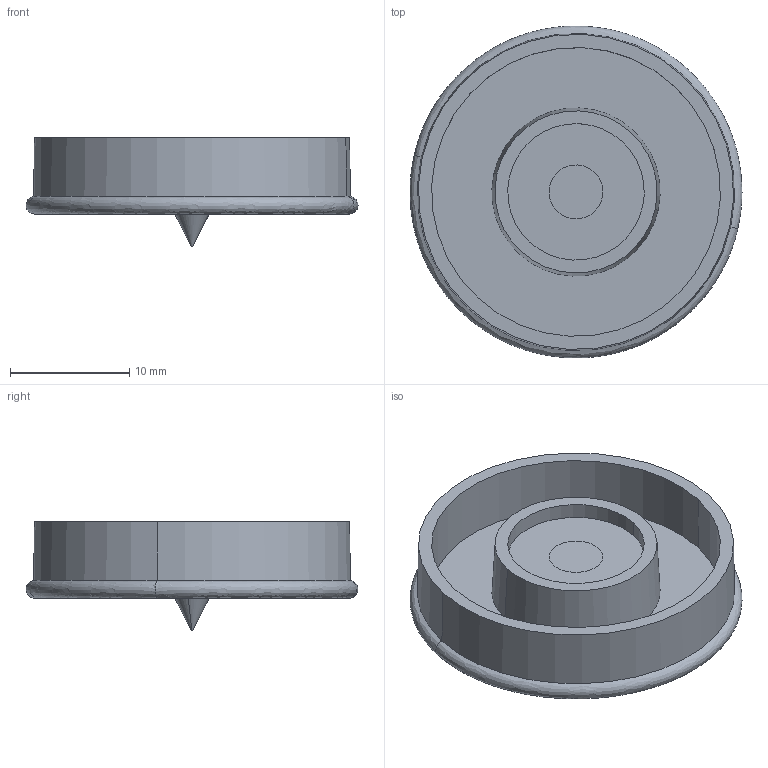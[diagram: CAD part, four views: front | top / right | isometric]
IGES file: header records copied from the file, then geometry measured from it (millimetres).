
Start section: 3D InterOp IGES (v. 2022 1.0.1), Spatial Corp. Copyright (c) 1999-2020.
Global section: file name: E545-F_11.05.821 Locator Button for Fixing of 11.05.818+819 Black PA.igs; native system: Spatial Corp.; preprocessor: 3D InterOp GENERIC/IGES 3.0; author: Noname; organization: Noname; date: 20251208.165921; units: millimetre
Bounding box: 27.83 x 27.83 x 9.13 mm (x, y, z)
Surface area: 2436.9 mm2 (no closed solid volume)
Topology: 0 solids, 0 shells, 23 faces, 90 edges, 90 vertices
Faces by surface type: revolution 16, extrusion 7
